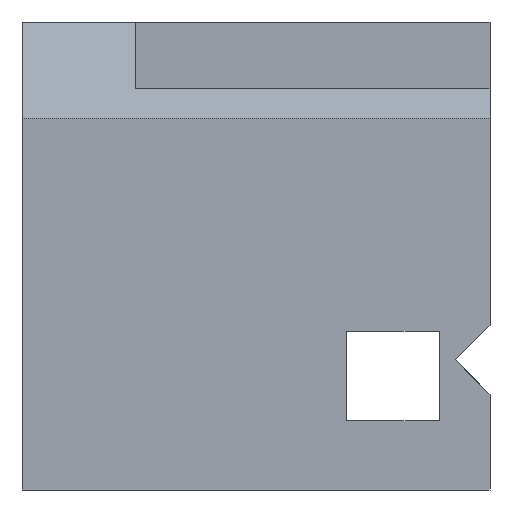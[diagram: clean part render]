
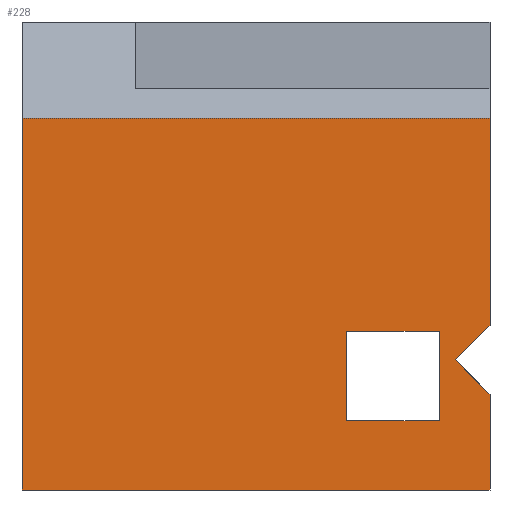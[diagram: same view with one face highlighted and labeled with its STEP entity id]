
A CAD part, left-side view. The second image highlights one B-rep face of the part: STEP entity #228.
In plain terms, the highlighted planar face has unit normal (-1, 0, 0).
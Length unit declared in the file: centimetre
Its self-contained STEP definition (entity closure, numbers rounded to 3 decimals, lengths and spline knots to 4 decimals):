
#8 = CARTESIAN_POINT ( 'NONE',  ( 0., 108.4756, 148.1504 ) ) ;
#10 = ORIENTED_EDGE ( 'NONE', *, *, #145, .F. ) ;
#13 = CARTESIAN_POINT ( 'NONE',  ( 0., 1000., 0. ) ) ;
#26 = DIRECTION ( 'NONE',  ( 0., 0.707, -0.707 ) ) ;
#35 = CARTESIAN_POINT ( 'NONE',  ( 0., 1000., 0. ) ) ;
#40 = LINE ( 'NONE', #834, #905 ) ;
#43 = CARTESIAN_POINT ( 'NONE',  ( 0., 1000., 1000. ) ) ;
#47 = VECTOR ( 'NONE', #329, 100. ) ;
#52 = EDGE_LOOP ( 'NONE', ( #73, #997, #766, #458 ) ) ;
#73 = ORIENTED_EDGE ( 'NONE', *, *, #508, .T. ) ;
#81 = VERTEX_POINT ( 'NONE', #35 ) ;
#83 = VECTOR ( 'NONE', #955, 100. ) ;
#90 = CARTESIAN_POINT ( 'NONE',  ( 0., 0., 351.3939 ) ) ;
#92 = LINE ( 'NONE', #980, #152 ) ;
#126 = VERTEX_POINT ( 'NONE', #722 ) ;
#145 = EDGE_CURVE ( 'NONE', #897, #126, #718, .T. ) ;
#152 = VECTOR ( 'NONE', #300, 100. ) ;
#187 = LINE ( 'NONE', #269, #909 ) ;
#188 = VECTOR ( 'NONE', #500, 100. ) ;
#190 = VERTEX_POINT ( 'NONE', #90 ) ;
#205 = ORIENTED_EDGE ( 'NONE', *, *, #540, .T. ) ;
#212 = EDGE_CURVE ( 'NONE', #81, #126, #482, .T. ) ;
#215 = EDGE_CURVE ( 'NONE', #701, #190, #984, .T. ) ;
#228 = ADVANCED_FACE ( 'NONE', ( #676, #1010 ), #281, .F. ) ;
#233 = CARTESIAN_POINT ( 'NONE',  ( 0., 108.4756, 339.083 ) ) ;
#252 = CARTESIAN_POINT ( 'NONE',  ( 0., 1000., 1000. ) ) ;
#255 = CARTESIAN_POINT ( 'NONE',  ( 0., 0., 1000. ) ) ;
#263 = AXIS2_PLACEMENT_3D ( 'NONE', #43, #680, #929 ) ;
#265 = EDGE_CURVE ( 'NONE', #190, #541, #40, .T. ) ;
#269 = CARTESIAN_POINT ( 'NONE',  ( 0., 306.3825, 148.1504 ) ) ;
#281 = PLANE ( 'NONE',  #263 ) ;
#300 = DIRECTION ( 'NONE',  ( 0., -0.707, -0.707 ) ) ;
#329 = DIRECTION ( 'NONE',  ( 0., -1., 0. ) ) ;
#331 = VERTEX_POINT ( 'NONE', #350 ) ;
#332 = DIRECTION ( 'NONE',  ( 0., 0., -1. ) ) ;
#350 = CARTESIAN_POINT ( 'NONE',  ( 0., 306.3825, 148.1504 ) ) ;
#358 = LINE ( 'NONE', #424, #188 ) ;
#363 = VECTOR ( 'NONE', #417, 100. ) ;
#383 = VECTOR ( 'NONE', #332, 100. ) ;
#400 = CARTESIAN_POINT ( 'NONE',  ( 0., 0., 793.925 ) ) ;
#417 = DIRECTION ( 'NONE',  ( 0., 0., -1. ) ) ;
#424 = CARTESIAN_POINT ( 'NONE',  ( 0., 108.4756, 339.083 ) ) ;
#429 = CARTESIAN_POINT ( 'NONE',  ( 0., 306.3825, 339.083 ) ) ;
#458 = ORIENTED_EDGE ( 'NONE', *, *, #786, .T. ) ;
#473 = LINE ( 'NONE', #639, #707 ) ;
#482 = LINE ( 'NONE', #13, #47 ) ;
#500 = DIRECTION ( 'NONE',  ( 0., -1., 0. ) ) ;
#508 = EDGE_CURVE ( 'NONE', #520, #643, #473, .T. ) ;
#520 = VERTEX_POINT ( 'NONE', #233 ) ;
#529 = VERTEX_POINT ( 'NONE', #790 ) ;
#540 = EDGE_CURVE ( 'NONE', #701, #529, #875, .T. ) ;
#541 = VERTEX_POINT ( 'NONE', #717 ) ;
#561 = CARTESIAN_POINT ( 'NONE',  ( 0., 108.4756, 148.1504 ) ) ;
#572 = EDGE_LOOP ( 'NONE', ( #10, #958, #769, #934, #205, #977, #803 ) ) ;
#582 = VECTOR ( 'NONE', #814, 100. ) ;
#628 = DIRECTION ( 'NONE',  ( 0., 1., 0. ) ) ;
#639 = CARTESIAN_POINT ( 'NONE',  ( 0., 108.4756, 148.1504 ) ) ;
#641 = LINE ( 'NONE', #561, #83 ) ;
#643 = VERTEX_POINT ( 'NONE', #8 ) ;
#676 = FACE_BOUND ( 'NONE', #52, .T. ) ;
#680 = DIRECTION ( 'NONE',  ( 1., 0., 0. ) ) ;
#701 = VERTEX_POINT ( 'NONE', #400 ) ;
#707 = VECTOR ( 'NONE', #971, 100. ) ;
#717 = CARTESIAN_POINT ( 'NONE',  ( 0., 73.4251, 277.9688 ) ) ;
#718 = LINE ( 'NONE', #892, #363 ) ;
#722 = CARTESIAN_POINT ( 'NONE',  ( 0., 0., 0. ) ) ;
#754 = DIRECTION ( 'NONE',  ( 0., 0., 1. ) ) ;
#766 = ORIENTED_EDGE ( 'NONE', *, *, #784, .T. ) ;
#769 = ORIENTED_EDGE ( 'NONE', *, *, #265, .F. ) ;
#784 = EDGE_CURVE ( 'NONE', #331, #819, #187, .T. ) ;
#786 = EDGE_CURVE ( 'NONE', #819, #520, #358, .T. ) ;
#790 = CARTESIAN_POINT ( 'NONE',  ( 0., 1000., 793.925 ) ) ;
#803 = ORIENTED_EDGE ( 'NONE', *, *, #212, .T. ) ;
#810 = CARTESIAN_POINT ( 'NONE',  ( 0., 0., 204.5438 ) ) ;
#814 = DIRECTION ( 'NONE',  ( 0., 0., -1. ) ) ;
#815 = LINE ( 'NONE', #252, #383 ) ;
#818 = VECTOR ( 'NONE', #628, 100. ) ;
#819 = VERTEX_POINT ( 'NONE', #429 ) ;
#834 = CARTESIAN_POINT ( 'NONE',  ( 0., 73.4251, 277.9688 ) ) ;
#875 = LINE ( 'NONE', #965, #818 ) ;
#892 = CARTESIAN_POINT ( 'NONE',  ( 0., 0., 1000. ) ) ;
#897 = VERTEX_POINT ( 'NONE', #810 ) ;
#904 = EDGE_CURVE ( 'NONE', #529, #81, #815, .T. ) ;
#905 = VECTOR ( 'NONE', #26, 100. ) ;
#909 = VECTOR ( 'NONE', #754, 100. ) ;
#929 = DIRECTION ( 'NONE',  ( 0., 0., -1. ) ) ;
#934 = ORIENTED_EDGE ( 'NONE', *, *, #215, .F. ) ;
#955 = DIRECTION ( 'NONE',  ( 0., 1., 0. ) ) ;
#958 = ORIENTED_EDGE ( 'NONE', *, *, #988, .F. ) ;
#965 = CARTESIAN_POINT ( 'NONE',  ( 0., 1000., 793.925 ) ) ;
#971 = DIRECTION ( 'NONE',  ( 0., 0., -1. ) ) ;
#977 = ORIENTED_EDGE ( 'NONE', *, *, #904, .T. ) ;
#980 = CARTESIAN_POINT ( 'NONE',  ( 0., 0., 204.5438 ) ) ;
#984 = LINE ( 'NONE', #255, #582 ) ;
#988 = EDGE_CURVE ( 'NONE', #541, #897, #92, .T. ) ;
#996 = EDGE_CURVE ( 'NONE', #643, #331, #641, .T. ) ;
#997 = ORIENTED_EDGE ( 'NONE', *, *, #996, .T. ) ;
#1010 = FACE_OUTER_BOUND ( 'NONE', #572, .T. ) ;
